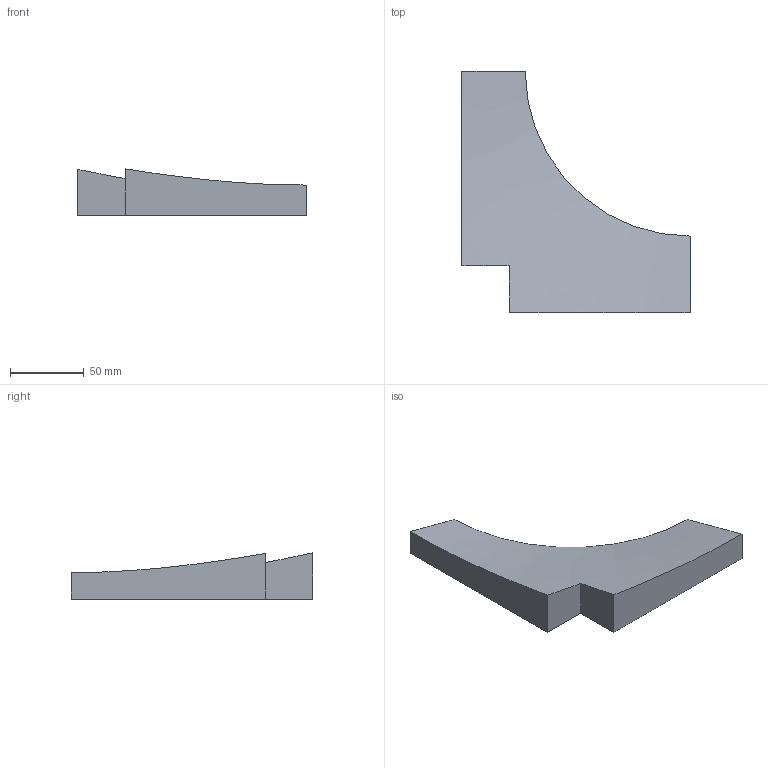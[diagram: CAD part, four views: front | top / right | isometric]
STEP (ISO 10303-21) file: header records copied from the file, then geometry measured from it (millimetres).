
FILE_DESCRIPTION(('Open CASCADE Model'),'2;1');
FILE_NAME('Open CASCADE Shape Model','2026-10-06T19:56:10',('Author'),( 'Open CASCADE'),'Open CASCADE STEP processor 7.9','Open CASCADE 7.9' ,'Unknown');
FILE_SCHEMA(('AUTOMOTIVE_DESIGN { 1 0 10303 214 1 1 1 1 }'));
Length unit declared in the file: millimetre
Products named in the file (1): Open CASCADE STEP translator 7.9 32
Bounding box: 155 x 164 x 31.42 mm (x, y, z)
Volume: 235656.7 mm3; surface area: 40058 mm2
Topology: 1 solids, 1 shells, 11 faces, 24 edges, 16 vertices
Faces by surface type: plane 8, cylinder 2, cone 1
Full cylindrical faces by diameter (mm): 13 x1
Entity records: 647 total; most frequent: CARTESIAN_POINT 193, DIRECTION 70, ORIENTED_EDGE 48, PCURVE 48, DEFINITIONAL_REPRESENTATION 48, LINE 29, VECTOR 29, B_SPLINE_CURVE_WITH_KNOTS 28
